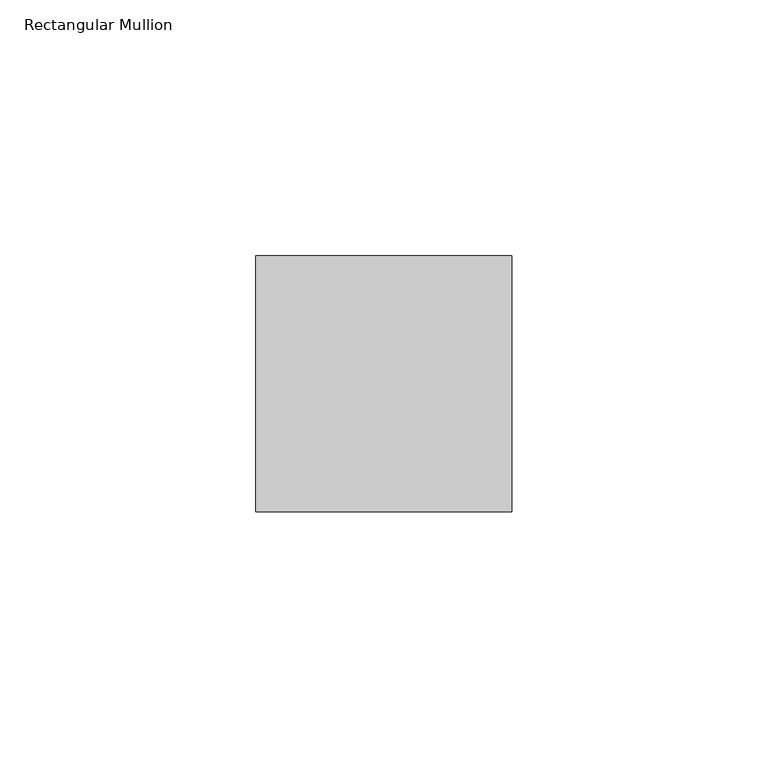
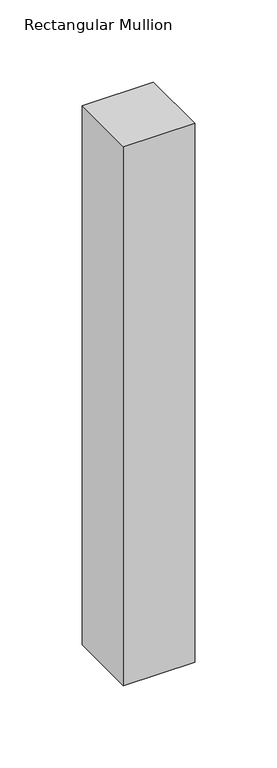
"""IFC4 building model written with IfcOpenShell, lengths in millimetres: member geometry, Rectangular Mullion : RSen_21_CWM_support profile 50x50 - left_gen_duco projects."""

from ifc_helpers import new_model, si_unit, frame, origin, place, context, project, spatial, polyline, outline, extrude, source, transform, mapped, element, save


def rectangular_mullion_05cc9e47(model_context):
    return source(origin(), model_context, "Body", "SweptSolid", [
        extrude(outline(polyline([(0.0, 1.0), (0.0, -49.0), (-50.0, -49.0), (-50.0, 1.0), (0.0, 1.0)])), frame((0.0, 0.0, -400.0), z_axis=(0.0, 0.0, 1.0), x_axis=(1.0, 0.0, 0.0)), (0.0, 0.0, 1.0), 400.0),
    ])


if __name__ == "__main__":
    model = new_model("IFC4")
    model_context = context("Model", 3, world=origin())
    ifc_project = project(units=[si_unit("LENGTHUNIT", "METRE", prefix="MILLI")], contexts=[model_context])
    site = spatial("IfcSite", under=ifc_project)
    building = spatial("IfcBuilding", under=site)
    placement = place(None, origin())
    rectangular_mullion_shape = rectangular_mullion_05cc9e47(model_context)
    element("IfcMember", 1, ObjectType="Rectangular Mullion : RSen_21_CWM_support profile 50x50 - left_gen_duco projects", at=placement, inside=building, context=model_context, shape_type="MappedRepresentation", body=[
        mapped(rectangular_mullion_shape, transform((0.0, 0.0, 0.0), x_axis=(1.0, 0.0, 0.0), y_axis=(0.0, 1.0, 0.0), z_axis=(0.0, 0.0, 1.0))),
    ])
    save(model, "model.ifc")
